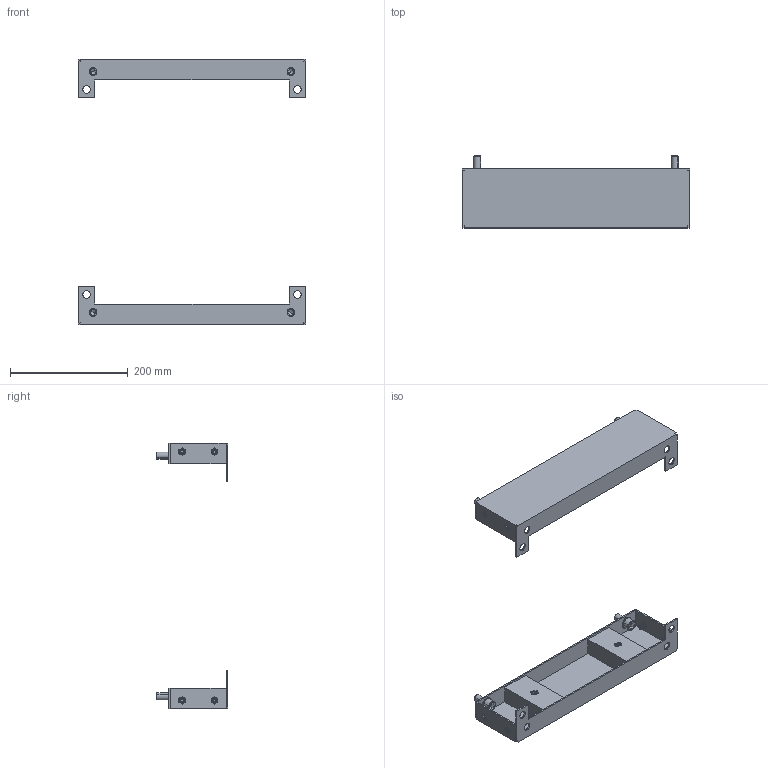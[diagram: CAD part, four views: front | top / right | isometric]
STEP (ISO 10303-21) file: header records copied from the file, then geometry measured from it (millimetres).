
FILE_DESCRIPTION (( 'STEP AP203' ), '1' );
FILE_NAME ('R6PLB45 H=450.STEP', '2025-05-16T11:38:41', ( '' ), ( '' ), 'SwSTEP 2.0', 'SolidWorks 2022', '' );
FILE_SCHEMA (( 'CONFIG_CONTROL_DESIGN' ));
Length unit declared in the file: millimetre
Products named in the file (8): RB.3309.00.02.0 simple; R6PLB45 H=450; M6 MGS-MPO-0635_thread; 12 DIN 6798 A Zinc; RB.3309.00.00.0 СБ simple_-03; RB.3309.00.01.0 simple_-03; M6 MGS-MPO-0635_straight; M12x25 DIN 912 HX cl.8,8 Zinc_stright
Assembly tree (19 placements, depth 3):
  R6PLB45 H=450
    RB.3309.00.00.0 СБ simple_-03  x2
      RB.3309.00.01.0 simple_-03
      M6 MGS-MPO-0635_thread
      RB.3309.00.02.0 simple
      M6 MGS-MPO-0635_straight
    12 DIN 6798 A Zinc  x4
    M12x25 DIN 912 HX cl.8,8 Zinc_stright  x4
Bounding box: 386.7 x 121.5 x 450 mm (x, y, z)
Volume: 476550.8 mm3; surface area: 394025.4 mm2
Topology: 26 solids, 26 shells, 1568 faces, 4128 edges, 2388 vertices
Faces by surface type: plane 640, cylinder 544, bspline 168, sphere 144, cone 40, torus 32
Entity records: 15002 total; most frequent: CARTESIAN_POINT 5755, ORIENTED_EDGE 1768, DIRECTION 1539, EDGE_CURVE 884, VERTEX_POINT 558, LINE 533, VECTOR 533, AXIS2_PLACEMENT_3D 503
